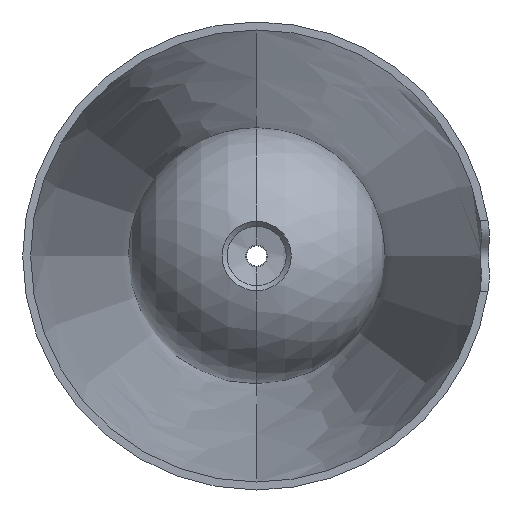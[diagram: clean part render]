
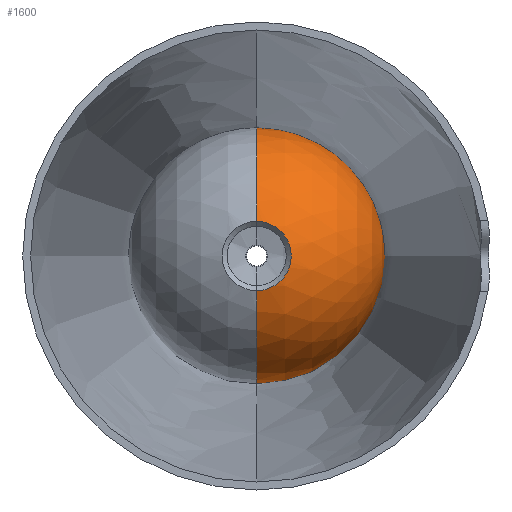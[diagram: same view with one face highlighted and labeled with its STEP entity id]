
A CAD part, front view. The second image highlights one B-rep face of the part: STEP entity #1600.
In plain terms, the highlighted spherical face has radius 65 mm.
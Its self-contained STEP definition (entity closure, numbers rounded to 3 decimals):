
#24 = ORIENTED_EDGE ( 'NONE', *, *, #916, .F. ) ;
#31 = CIRCLE ( 'NONE', #659, 17.542 ) ;
#53 = EDGE_CURVE ( 'NONE', #761, #325, #938, .T. ) ;
#79 = CARTESIAN_POINT ( 'NONE',  ( -105.379, 38.357, 29.548 ) ) ;
#230 = ORIENTED_EDGE ( 'NONE', *, *, #1277, .T. ) ;
#237 = DIRECTION ( 'NONE',  ( 1., 0., 0. ) ) ;
#247 = SPHERICAL_SURFACE ( 'NONE', #1027, 65. ) ;
#325 = VERTEX_POINT ( 'NONE', #596 ) ;
#335 = FACE_OUTER_BOUND ( 'NONE', #388, .T. ) ;
#388 = EDGE_LOOP ( 'NONE', ( #230, #1465, #1959, #24 ) ) ;
#429 = DIRECTION ( 'NONE',  ( 0., 1., 0. ) ) ;
#459 = DIRECTION ( 'NONE',  ( 1., 0., 0. ) ) ;
#596 = CARTESIAN_POINT ( 'NONE',  ( -105.379, 103.124, 24.048 ) ) ;
#659 = AXIS2_PLACEMENT_3D ( 'NONE', #1237, #1849, #1692 ) ;
#693 = DIRECTION ( 'NONE',  ( 0., 0., 1. ) ) ;
#728 = CIRCLE ( 'NONE', #828, 65. ) ;
#761 = VERTEX_POINT ( 'NONE', #1313 ) ;
#828 = AXIS2_PLACEMENT_3D ( 'NONE', #79, #1751, #1445 ) ;
#916 = EDGE_CURVE ( 'NONE', #1948, #761, #728, .T. ) ;
#938 = CIRCLE ( 'NONE', #1922, 5.5 ) ;
#1027 = AXIS2_PLACEMENT_3D ( 'NONE', #1822, #237, #693 ) ;
#1043 = DIRECTION ( 'NONE',  ( 0., 0., 1. ) ) ;
#1056 = DIRECTION ( 'NONE',  ( 0., 0., -1. ) ) ;
#1064 = VERTEX_POINT ( 'NONE', #1395 ) ;
#1096 = CARTESIAN_POINT ( 'NONE',  ( -105.379, -24.231, 47.09 ) ) ;
#1158 = AXIS2_PLACEMENT_3D ( 'NONE', #1242, #459, #1056 ) ;
#1237 = CARTESIAN_POINT ( 'NONE',  ( -105.379, -24.231, 29.548 ) ) ;
#1242 = CARTESIAN_POINT ( 'NONE',  ( -105.379, 38.357, 29.548 ) ) ;
#1277 = EDGE_CURVE ( 'NONE', #1948, #1064, #31, .T. ) ;
#1313 = CARTESIAN_POINT ( 'NONE',  ( -105.379, 103.124, 35.048 ) ) ;
#1395 = CARTESIAN_POINT ( 'NONE',  ( -105.379, -24.231, 12.005 ) ) ;
#1414 = CIRCLE ( 'NONE', #1158, 65. ) ;
#1445 = DIRECTION ( 'NONE',  ( 0., 0., 1. ) ) ;
#1465 = ORIENTED_EDGE ( 'NONE', *, *, #1943, .T. ) ;
#1600 = ADVANCED_FACE ( 'NONE', ( #335 ), #247, .T. ) ;
#1692 = DIRECTION ( 'NONE',  ( 0., 0., 1. ) ) ;
#1751 = DIRECTION ( 'NONE',  ( -1., 0., 0. ) ) ;
#1822 = CARTESIAN_POINT ( 'NONE',  ( -105.379, 38.357, 29.548 ) ) ;
#1841 = CARTESIAN_POINT ( 'NONE',  ( -105.379, 103.124, 29.548 ) ) ;
#1849 = DIRECTION ( 'NONE',  ( 0., 1., 0. ) ) ;
#1922 = AXIS2_PLACEMENT_3D ( 'NONE', #1841, #429, #1043 ) ;
#1943 = EDGE_CURVE ( 'NONE', #1064, #325, #1414, .T. ) ;
#1948 = VERTEX_POINT ( 'NONE', #1096 ) ;
#1959 = ORIENTED_EDGE ( 'NONE', *, *, #53, .F. ) ;
